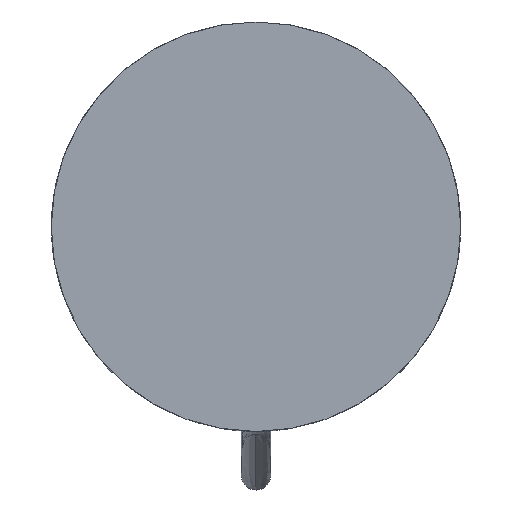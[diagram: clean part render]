
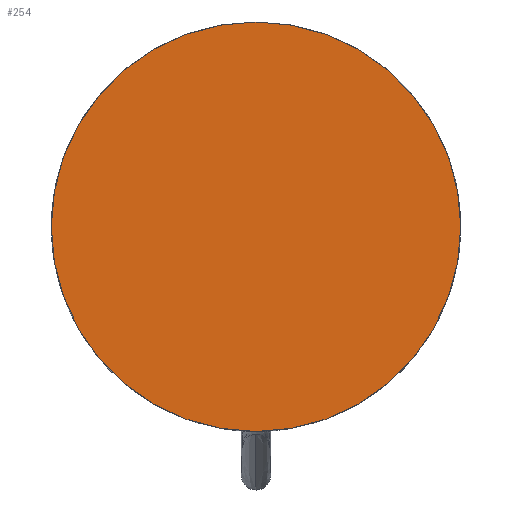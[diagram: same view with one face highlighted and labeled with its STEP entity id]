
A CAD part, front view. The second image highlights one B-rep face of the part: STEP entity #254.
In plain terms, the highlighted planar face has unit normal (0, -1, 0).
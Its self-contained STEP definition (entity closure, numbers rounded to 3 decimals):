
#85 = CIRCLE ( 'NONE', #299, 70. ) ;
#254 = ADVANCED_FACE ( 'NONE', ( #1637 ), #599, .F. ) ;
#269 = EDGE_CURVE ( 'NONE', #686, #1033, #85, .T. ) ;
#299 = AXIS2_PLACEMENT_3D ( 'NONE', #1882, #617, #2085 ) ;
#318 = ORIENTED_EDGE ( 'NONE', *, *, #1758, .F. ) ;
#348 = AXIS2_PLACEMENT_3D ( 'NONE', #1946, #1164, #2127 ) ;
#443 = CARTESIAN_POINT ( 'NONE',  ( 0., 0., -70. ) ) ;
#599 = PLANE ( 'NONE',  #348 ) ;
#617 = DIRECTION ( 'NONE',  ( 0., 1., 0. ) ) ;
#686 = VERTEX_POINT ( 'NONE', #443 ) ;
#759 = DIRECTION ( 'NONE',  ( 0., 1., 0. ) ) ;
#1033 = VERTEX_POINT ( 'NONE', #2302 ) ;
#1037 = EDGE_LOOP ( 'NONE', ( #1090, #318 ) ) ;
#1090 = ORIENTED_EDGE ( 'NONE', *, *, #269, .F. ) ;
#1098 = CARTESIAN_POINT ( 'NONE',  ( 0., 0., 0. ) ) ;
#1164 = DIRECTION ( 'NONE',  ( 0., 1., 0. ) ) ;
#1406 = CIRCLE ( 'NONE', #2287, 70. ) ;
#1637 = FACE_OUTER_BOUND ( 'NONE', #1037, .T. ) ;
#1758 = EDGE_CURVE ( 'NONE', #1033, #686, #1406, .T. ) ;
#1882 = CARTESIAN_POINT ( 'NONE',  ( 0., 0., 0. ) ) ;
#1946 = CARTESIAN_POINT ( 'NONE',  ( 0., 0., 0. ) ) ;
#2031 = DIRECTION ( 'NONE',  ( 0., 0., 1. ) ) ;
#2085 = DIRECTION ( 'NONE',  ( 0., 0., 1. ) ) ;
#2127 = DIRECTION ( 'NONE',  ( 0., 0., 1. ) ) ;
#2287 = AXIS2_PLACEMENT_3D ( 'NONE', #1098, #759, #2031 ) ;
#2302 = CARTESIAN_POINT ( 'NONE',  ( 0., 0., 70. ) ) ;
